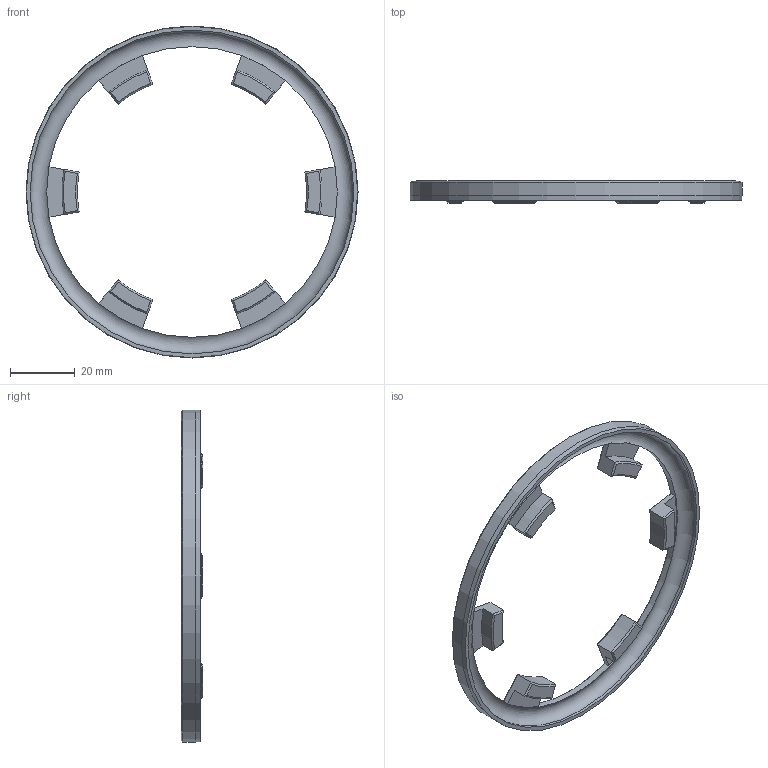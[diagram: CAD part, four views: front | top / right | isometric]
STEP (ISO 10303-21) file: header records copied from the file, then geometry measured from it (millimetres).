
FILE_DESCRIPTION(/* description */ (''),/* implementation_level */ '2;1');
FILE_NAME(/* name */ 'X:\Develop\CAD\NakataOmni\DriveUnitR3\BearingSeal.stp',/* time_stamp */ '2024-05-26T16:44:51+09:00',/* author */ ('kumagai'),/* organization */ (''),/* preprocessor_version */ 'ST-DEVELOPER v19',/* originating_system */ 'Autodesk Inventor 2023',/* authorisation */ '');
FILE_SCHEMA (('AUTOMOTIVE_DESIGN { 1 0 10303 214 3 1 1 }'));
Length unit declared in the file: millimetre
Products named in the file (1): LowerCase
Bounding box: 102.8 x 6.8 x 102.8 mm (x, y, z)
Volume: 9531.1 mm3; surface area: 9976.9 mm2
Topology: 1 solids, 1 shells, 92 faces, 222 edges, 132 vertices
Faces by surface type: plane 50, cone 26, cylinder 15, torus 1
Full cylindrical faces by diameter (mm): 90 x1, 100.2 x1, 102.8 x1
Entity records: 2706 total; most frequent: CARTESIAN_POINT 579, ORIENTED_EDGE 444, DIRECTION 433, EDGE_CURVE 222, AXIS2_PLACEMENT_3D 166, VERTEX_POINT 132, LINE 101, VECTOR 101
